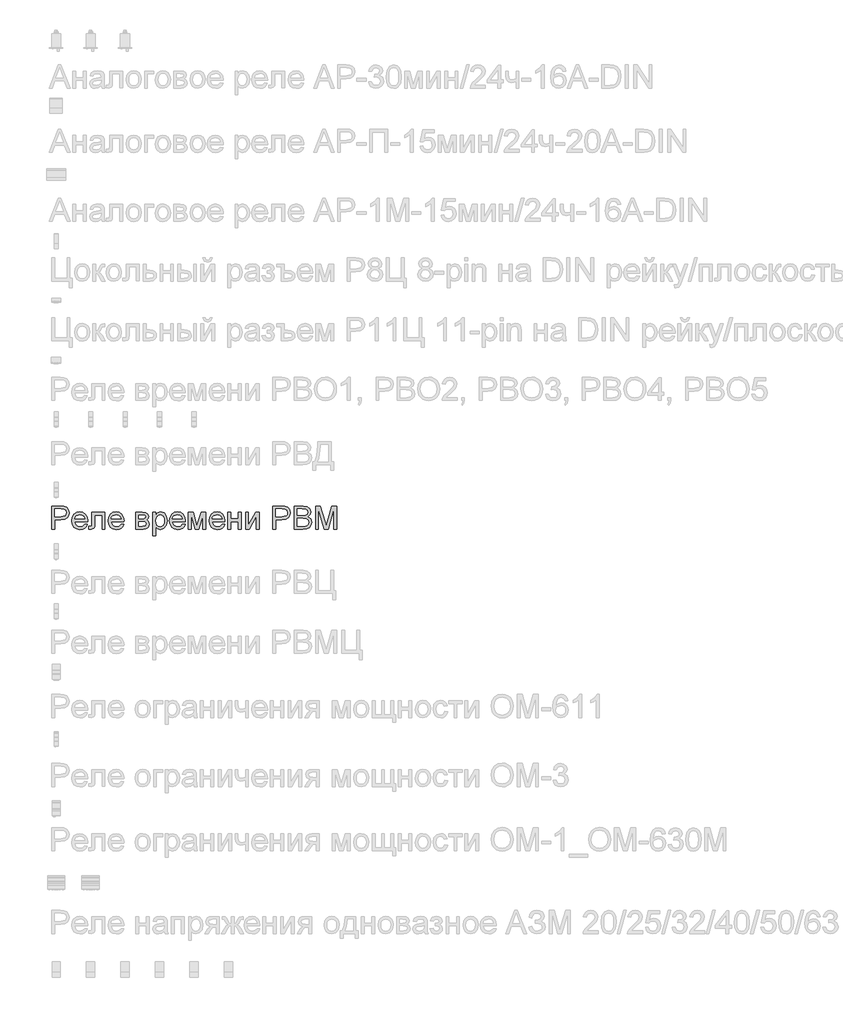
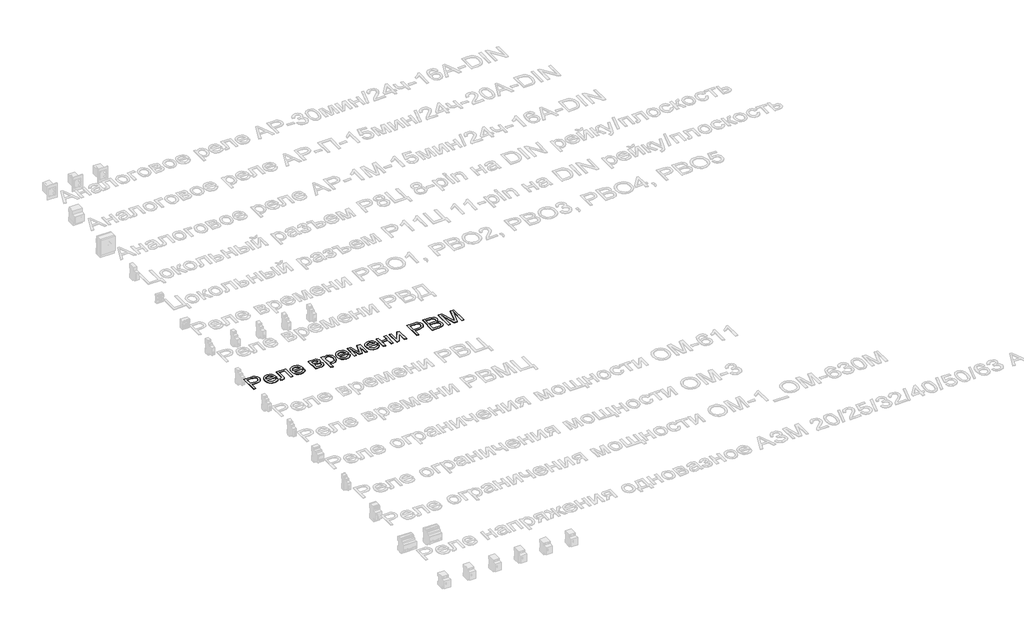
# One storey, part 20 of 34: 1 proxy.
"""IFC4 building model written with IfcOpenShell, lengths in millimetres."""

from ifc_helpers import new_model, si_unit, frame, origin, place, context, project, spatial, polyline, outline, extrude, element, save

model = new_model("IFC4")

# Units and contexts
model_context = context("Model", 3, world=origin())
ifc_project = project(units=[si_unit("LENGTHUNIT", "METRE", prefix="MILLI")], contexts=[model_context])

# Site, building, storey
site = spatial("IfcSite", under=ifc_project)
building = spatial("IfcBuilding", under=site)
storey = spatial("IfcBuildingStorey", under=building, Name="Этаж 01", Elevation=0.0)

# Proxy
placement = place(None, origin())
element("IfcBuildingElementProxy", 1, Name="Надпись на модели 1", ObjectType="Надпись на модели 1", at=placement, inside=storey, context=model_context, shape_type="SweptSolid", body=[
    extrude(outline(polyline([(-19039.0125911, 14036.235284), (-19039.0125911, 14136.6915941), (-19001.7829332, 14136.6915941), (-18986.7733478, 14135.735101), (-18974.5719283, 14131.0384742), (-18966.6624654, 14121.3263895), (-18963.6703585, 14107.6289165), (-18965.6906438, 14095.7892476), (-18971.7514996, 14085.9238788), (-18983.0853308, 14079.2652147), (-19000.9245418, 14077.04566), (-19026.4555523, 14077.04566), (-19026.4555523, 14036.235284), (-19039.0125911, 14036.235284)]), holes=[polyline([(-19026.4555523, 14089.6026988), (-19000.1887779, 14089.6026988), (-18981.6965762, 14094.2134864), (-18977.594692, 14099.7623732), (-18976.2273972, 14107.1874581), (-18979.4524961, 14117.5862559), (-18987.9260447, 14123.2761641), (-19000.4830834, 14124.1345554), (-19026.4555523, 14124.1345554), (-19026.4555523, 14089.6026988)])]), frame((0.0, 0.0, 40.0), z_axis=(0.0, 0.0, 1.0), x_axis=(1.0, 0.0, 0.0)), (0.0, 0.0, 1.0), 2.0),
    extrude(outline(polyline([(-18896.3234279, 14058.2101018), (-18884.0116438, 14056.640472), (-18888.4476875, 14047.3637143), (-18895.5263502, 14040.4291387), (-18905.0882164, 14036.1065253), (-18916.9738705, 14034.6656541), (-18931.7075445, 14037.1519233), (-18943.0444413, 14044.6107308), (-18950.2733225, 14056.5576985), (-18952.6829495, 14072.5084487), (-18950.248797, 14088.9956935), (-18942.9463394, 14101.3258717), (-18931.7627268, 14109.0146054), (-18917.6851091, 14111.5775166), (-18904.0458841, 14109.0207367), (-18893.14738, 14101.3503971), (-18886.0012722, 14089.0447444), (-18883.6192363, 14072.5820251), (-18883.6928127, 14069.1975108), (-18940.1259108, 14069.1975108), (-18937.9523413, 14059.7981258), (-18932.9031609, 14052.8880756), (-18925.6160317, 14048.6390386), (-18916.7286159, 14047.2226929), (-18904.4168318, 14049.8469178), (-18896.3234279, 14058.2101018)]), holes=[polyline([(-18940.1259108, 14081.7545495), (-18896.1762751, 14081.7545495), (-18901.2039957, 14093.1343659), (-18908.5248474, 14097.5489499), (-18917.73416, 14099.0204778), (-18933.1974665, 14094.323851), (-18938.0627059, 14088.8332123), (-18940.1259108, 14081.7545495)])]), frame((0.0, 0.0, 40.0), z_axis=(0.0, 0.0, 1.0), x_axis=(1.0, 0.0, 0.0)), (0.0, 0.0, 1.0), 2.0),
    extrude(outline(polyline([(-18864.7836782, 14110.0078868), (-18808.2770037, 14110.0078868), (-18808.2770037, 14036.3088604), (-18820.8340425, 14036.3088604), (-18820.8340425, 14097.450848), (-18852.2266394, 14097.450848), (-18852.2266394, 14062.2568038), (-18853.072768, 14046.0209451), (-18857.7203439, 14039.1660772), (-18868.7077528, 14036.235284), (-18878.9103468, 14036.8729461), (-18878.9103468, 14048.7923228), (-18873.294015, 14048.7923228), (-18867.6163695, 14049.564875), (-18865.3477639, 14052.0174216), (-18864.7836782, 14062.9680423), (-18864.7836782, 14110.0078868)])), frame((0.0, 0.0, 40.0), z_axis=(0.0, 0.0, 1.0), x_axis=(1.0, 0.0, 0.0)), (0.0, 0.0, 1.0), 2.0),
    extrude(outline(polyline([(-18737.7908134, 14058.2101018), (-18725.4790293, 14056.640472), (-18729.915073, 14047.3637143), (-18736.9937358, 14040.4291387), (-18746.555602, 14036.1065253), (-18758.4412561, 14034.6656541), (-18773.17493, 14037.1519233), (-18784.5118268, 14044.6107308), (-18791.740708, 14056.5576985), (-18794.1503351, 14072.5084487), (-18791.7161826, 14088.9956935), (-18784.4137249, 14101.3258717), (-18773.2301123, 14109.0146054), (-18759.1524946, 14111.5775166), (-18745.5132696, 14109.0207367), (-18734.6147655, 14101.3503971), (-18727.4686578, 14089.0447444), (-18725.0866219, 14072.5820251), (-18725.1601983, 14069.1975108), (-18781.5932963, 14069.1975108), (-18779.4197269, 14059.7981258), (-18774.3705465, 14052.8880756), (-18767.0834173, 14048.6390386), (-18758.1960014, 14047.2226929), (-18745.8842173, 14049.8469178), (-18737.7908134, 14058.2101018)]), holes=[polyline([(-18781.5932963, 14081.7545495), (-18737.6436606, 14081.7545495), (-18742.6713812, 14093.1343659), (-18749.9922329, 14097.5489499), (-18759.2015455, 14099.0204778), (-18774.6648521, 14094.323851), (-18779.5300915, 14088.8332123), (-18781.5932963, 14081.7545495)])]), frame((0.0, 0.0, 40.0), z_axis=(0.0, 0.0, 1.0), x_axis=(1.0, 0.0, 0.0)), (0.0, 0.0, 1.0), 2.0),
    extrude(outline(polyline([(-18673.2888369, 14110.0078868), (-18645.6241109, 14110.0078868), (-18630.45511, 14108.3278923), (-18621.9202477, 14102.1720003), (-18618.3517923, 14091.4421087), (-18620.5100334, 14082.7233055), (-18627.0092819, 14076.5060997), (-18618.5725215, 14069.7002828), (-18615.2125326, 14057.8667453), (-18617.3401168, 14048.2956821), (-18622.3984943, 14041.5573102), (-18630.406059, 14037.5657905), (-18641.3812052, 14036.235284), (-18673.2888369, 14036.235284), (-18673.2888369, 14110.0078868)]), holes=[polyline([(-18660.7317982, 14081.7545495), (-18648.3219122, 14081.7545495), (-18638.08253, 14082.3922117), (-18633.1038603, 14084.9428602), (-18630.9088311, 14089.5536478), (-18634.7593293, 14095.7095399), (-18647.9295047, 14097.450848), (-18660.7317982, 14097.450848), (-18660.7317982, 14081.7545495)]), polyline([(-18660.7317982, 14048.7923228), (-18645.3298053, 14048.7923228), (-18631.6691206, 14051.0609284), (-18627.7695714, 14058.8968149), (-18629.9155497, 14064.9423424), (-18635.507356, 14068.4617468), (-18646.5560786, 14069.1975108), (-18660.7317982, 14069.1975108), (-18660.7317982, 14048.7923228)])]), frame((0.0, 0.0, 40.0), z_axis=(0.0, 0.0, 1.0), x_axis=(1.0, 0.0, 0.0)), (0.0, 0.0, 1.0), 2.0),
    extrude(outline(polyline([(-18599.5162342, 14007.9819468), (-18599.5162342, 14110.0078868), (-18586.9591954, 14110.0078868), (-18586.9591954, 14097.6961027), (-18578.2771803, 14108.1071631), (-18566.5540074, 14111.5775166), (-18550.6369797, 14106.7214743), (-18540.238182, 14093.036264), (-18536.7310403, 14073.6856711), (-18540.6919031, 14053.3417968), (-18552.1943469, 14039.4849083), (-18568.0745863, 14034.6656541), (-18579.0006816, 14037.890753), (-18586.9591954, 14046.0454705), (-18586.9591954, 14007.9819468), (-18599.5162342, 14007.9819468)]), holes=[polyline([(-18586.9591954, 14072.5329742), (-18585.6010977, 14061.2757851), (-18581.5268046, 14053.4031104), (-18575.5149997, 14048.7677973), (-18568.3443664, 14047.2226929), (-18561.0572373, 14048.8229796), (-18554.8921482, 14053.6238396), (-18550.6890964, 14061.7846886), (-18549.2880791, 14073.4649419), (-18550.6553738, 14084.6608173), (-18554.7572581, 14092.6438566), (-18560.759866, 14097.4263225), (-18567.8293317, 14099.0204778), (-18574.9263885, 14097.325155), (-18581.1589226, 14092.2391864), (-18585.5091272, 14083.9219876), (-18586.9591954, 14072.5329742)])]), frame((0.0, 0.0, 40.0), z_axis=(0.0, 0.0, 1.0), x_axis=(1.0, 0.0, 0.0)), (0.0, 0.0, 1.0), 2.0),
    extrude(outline(polyline([(-18470.9537396, 14058.2101018), (-18458.6419555, 14056.640472), (-18463.0779992, 14047.3637143), (-18470.1566619, 14040.4291387), (-18479.7185281, 14036.1065253), (-18491.6041823, 14034.6656541), (-18506.3378562, 14037.1519233), (-18517.674753, 14044.6107308), (-18524.9036342, 14056.5576985), (-18527.3132613, 14072.5084487), (-18524.8791087, 14088.9956935), (-18517.5766511, 14101.3258717), (-18506.3930385, 14109.0146054), (-18492.3154208, 14111.5775166), (-18478.6761958, 14109.0207367), (-18467.7776917, 14101.3503971), (-18460.6315839, 14089.0447444), (-18458.249548, 14072.5820251), (-18458.3231244, 14069.1975108), (-18514.7562225, 14069.1975108), (-18512.582653, 14059.7981258), (-18507.5334726, 14052.8880756), (-18500.2463435, 14048.6390386), (-18491.3589276, 14047.2226929), (-18479.0471435, 14049.8469178), (-18470.9537396, 14058.2101018)]), holes=[polyline([(-18514.7562225, 14081.7545495), (-18470.8065868, 14081.7545495), (-18475.8343074, 14093.1343659), (-18483.1551591, 14097.5489499), (-18492.3644717, 14099.0204778), (-18507.8277782, 14094.323851), (-18512.6930176, 14088.8332123), (-18514.7562225, 14081.7545495)])]), frame((0.0, 0.0, 40.0), z_axis=(0.0, 0.0, 1.0), x_axis=(1.0, 0.0, 0.0)), (0.0, 0.0, 1.0), 2.0),
    extrude(outline(polyline([(-18445.6925093, 14110.0078868), (-18424.0855734, 14110.0078868), (-18407.4327818, 14050.9505638), (-18389.4801404, 14110.0078868), (-18368.7806468, 14110.0078868), (-18368.7806468, 14036.235284), (-18381.3376856, 14036.235284), (-18381.3376856, 14095.6359635), (-18399.3884288, 14036.235284), (-18415.8695422, 14036.235284), (-18433.1354705, 14098.4809176), (-18433.1354705, 14036.235284), (-18445.6925093, 14036.235284), (-18445.6925093, 14110.0078868)])), frame((0.0, 0.0, 40.0), z_axis=(0.0, 0.0, 1.0), x_axis=(1.0, 0.0, 0.0)), (0.0, 0.0, 1.0), 2.0),
    extrude(outline(polyline([(-18298.2944565, 14058.2101018), (-18285.9826724, 14056.640472), (-18290.4187161, 14047.3637143), (-18297.4973789, 14040.4291387), (-18307.0592451, 14036.1065253), (-18318.9448992, 14034.6656541), (-18333.6785731, 14037.1519233), (-18345.0154699, 14044.6107308), (-18352.2443511, 14056.5576985), (-18354.6539782, 14072.5084487), (-18352.2198256, 14088.9956935), (-18344.917368, 14101.3258717), (-18333.7337554, 14109.0146054), (-18319.6561377, 14111.5775166), (-18306.0169127, 14109.0207367), (-18295.1184086, 14101.3503971), (-18287.9723009, 14089.0447444), (-18285.590265, 14072.5820251), (-18285.6638414, 14069.1975108), (-18342.0969394, 14069.1975108), (-18339.92337, 14059.7981258), (-18334.8741896, 14052.8880756), (-18327.5870604, 14048.6390386), (-18318.6996445, 14047.2226929), (-18306.3878604, 14049.8469178), (-18298.2944565, 14058.2101018)]), holes=[polyline([(-18342.0969394, 14081.7545495), (-18298.1473037, 14081.7545495), (-18303.1750243, 14093.1343659), (-18310.495876, 14097.5489499), (-18319.7051886, 14099.0204778), (-18335.1684952, 14094.323851), (-18340.0337346, 14088.8332123), (-18342.0969394, 14081.7545495)])]), frame((0.0, 0.0, 40.0), z_axis=(0.0, 0.0, 1.0), x_axis=(1.0, 0.0, 0.0)), (0.0, 0.0, 1.0), 2.0),
    extrude(outline(polyline([(-18273.0332262, 14110.0078868), (-18260.4761874, 14110.0078868), (-18260.4761874, 14081.7545495), (-18227.5139607, 14081.7545495), (-18227.5139607, 14110.0078868), (-18214.9569219, 14110.0078868), (-18214.9569219, 14036.235284), (-18227.5139607, 14036.235284), (-18227.5139607, 14069.1975108), (-18260.4761874, 14069.1975108), (-18260.4761874, 14036.235284), (-18273.0332262, 14036.235284), (-18273.0332262, 14110.0078868)])), frame((0.0, 0.0, 40.0), z_axis=(0.0, 0.0, 1.0), x_axis=(1.0, 0.0, 0.0)), (0.0, 0.0, 1.0), 2.0),
    extrude(outline(polyline([(-18196.1213637, 14110.0078868), (-18183.564325, 14110.0078868), (-18183.564325, 14053.746467), (-18152.7112883, 14110.0078868), (-18136.4754296, 14110.0078868), (-18136.4754296, 14036.235284), (-18149.0324683, 14036.235284), (-18149.0324683, 14092.1533473), (-18179.6893013, 14036.235284), (-18196.1213637, 14036.235284), (-18196.1213637, 14110.0078868)])), frame((0.0, 0.0, 40.0), z_axis=(0.0, 0.0, 1.0), x_axis=(1.0, 0.0, 0.0)), (0.0, 0.0, 1.0), 2.0),
    extrude(outline(polyline([(-18076.8294954, 14036.235284), (-18076.8294954, 14136.6915941), (-18039.5998375, 14136.6915941), (-18024.5902521, 14135.735101), (-18012.3888326, 14131.0384742), (-18004.4793697, 14121.3263895), (-18001.4872628, 14107.6289165), (-18003.5075481, 14095.7892476), (-18009.568404, 14085.9238788), (-18020.9022351, 14079.2652147), (-18038.7414462, 14077.04566), (-18064.2724567, 14077.04566), (-18064.2724567, 14036.235284), (-18076.8294954, 14036.235284)]), holes=[polyline([(-18064.2724567, 14089.6026988), (-18038.0056822, 14089.6026988), (-18019.5134806, 14094.2134864), (-18015.4115963, 14099.7623732), (-18014.0443016, 14107.1874581), (-18017.2694004, 14117.5862559), (-18025.742949, 14123.2761641), (-18038.2999878, 14124.1345554), (-18064.2724567, 14124.1345554), (-18064.2724567, 14089.6026988)])]), frame((0.0, 0.0, 40.0), z_axis=(0.0, 0.0, 1.0), x_axis=(1.0, 0.0, 0.0)), (0.0, 0.0, 1.0), 2.0),
    extrude(outline(polyline([(-17984.2213345, 14036.235284), (-17984.2213345, 14136.6915941), (-17945.8880306, 14136.6915941), (-17927.1137861, 14133.7362754), (-17916.0282753, 14124.6495902), (-17912.0183616, 14111.7982458), (-17915.3906132, 14100.0628102), (-17925.5809445, 14091.1723286), (-17913.2078467, 14081.8036005), (-17908.8791019, 14066.1808784), (-17911.8344206, 14052.6796092), (-17919.1552723, 14043.0656264), (-17930.0813675, 14037.9643294), (-17946.1823362, 14036.235284), (-17984.2213345, 14036.235284)]), holes=[polyline([(-17971.6642957, 14095.8812181), (-17948.7329847, 14095.8812181), (-17935.3420801, 14096.9603387), (-17927.2854644, 14101.6079145), (-17924.5754004, 14109.7871576), (-17927.1015234, 14117.9786633), (-17934.336536, 14122.8224429), (-17950.4742928, 14124.1345554), (-17971.6642957, 14124.1345554), (-17971.6642957, 14095.8812181)]), polyline([(-17971.6642957, 14048.7923228), (-17945.9125561, 14048.7923228), (-17936.5928789, 14049.2828321), (-17928.7079414, 14052.0174216), (-17923.4840171, 14057.5969652), (-17921.4361407, 14066.0582511), (-17923.8396364, 14075.8193867), (-17931.6264719, 14081.6441849), (-17947.1388294, 14083.3241794), (-17971.6642957, 14083.3241794), (-17971.6642957, 14048.7923228)])]), frame((0.0, 0.0, 40.0), z_axis=(0.0, 0.0, 1.0), x_axis=(1.0, 0.0, 0.0)), (0.0, 0.0, 1.0), 2.0),
    extrude(outline(polyline([(-17891.6131736, 14036.235284), (-17891.6131736, 14136.6915941), (-17870.0062377, 14136.6915941), (-17849.4538969, 14065.8865728), (-17845.3090931, 14051.0977166), (-17840.8209328, 14067.1128461), (-17820.6119485, 14136.6915941), (-17799.0050127, 14136.6915941), (-17799.0050127, 14036.235284), (-17811.5620514, 14036.235284), (-17811.5620514, 14124.1345554), (-17836.7987563, 14036.235284), (-17853.8194299, 14036.235284), (-17879.0561348, 14124.1345554), (-17879.0561348, 14036.235284), (-17891.6131736, 14036.235284)])), frame((0.0, 0.0, 40.0), z_axis=(0.0, 0.0, 1.0), x_axis=(1.0, 0.0, 0.0)), (0.0, 0.0, 1.0), 2.0),
])

save(model, "model.ifc")
